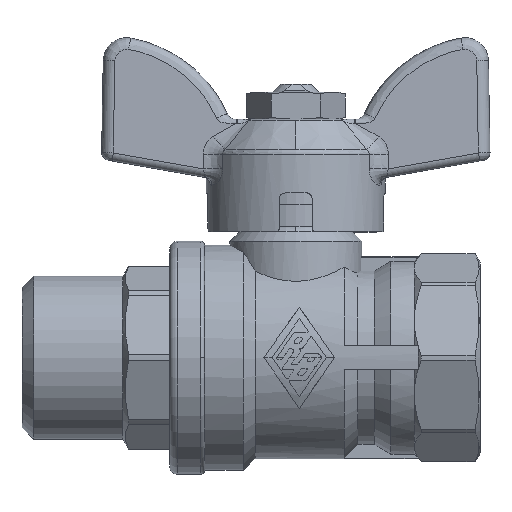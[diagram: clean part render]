
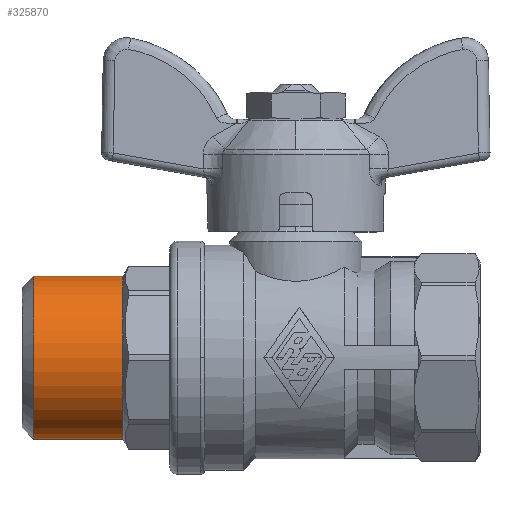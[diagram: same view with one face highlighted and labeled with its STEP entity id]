
A CAD part, top view. The second image highlights one B-rep face of the part: STEP entity #325870.
In plain terms, the highlighted cylindrical face has radius 10.5 mm (diameter 21 mm), a partial arc.
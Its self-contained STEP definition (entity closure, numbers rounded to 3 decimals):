
#58290=CARTESIAN_POINT('',(28.,0.,
0.));
#58300=DIRECTION('',(-1.,0.,0.));
#58310=DIRECTION('',(0.,-1.,0.));
#58320=AXIS2_PLACEMENT_3D('',#58290,#58300,#58310);
#58330=CYLINDRICAL_SURFACE('',#58320,10.5);
#58340=CARTESIAN_POINT('',(28.,10.5,0.))
;
#58350=DIRECTION('',(-1.,0.,0.));
#58360=VECTOR('',#58350,1.);
#58370=LINE('',#58340,#58360);
#58380=CARTESIAN_POINT('',(33.75,10.5,0.))
;
#58390=VERTEX_POINT('',#58380);
#58400=CARTESIAN_POINT('',(22.25,10.5,0.))
;
#58410=VERTEX_POINT('',#58400);
#58420=EDGE_CURVE('',#58390,#58410,#58370,.T.);
#58440=CARTESIAN_POINT('',(33.75,0.,
0.));
#58450=DIRECTION('',(1.,0.,0.));
#58460=DIRECTION('',(0.,-1.,0.));
#58470=AXIS2_PLACEMENT_3D('',#58440,#58450,#58460);
#58480=CIRCLE('',#58470,10.5);
#58490=CARTESIAN_POINT('',(33.75,-10.5,0.))
;
#58500=VERTEX_POINT('',#58490);
#58530=CARTESIAN_POINT('',(28.,-10.5,0.)
);
#58540=DIRECTION('',(-1.,0.,0.));
#58550=VECTOR('',#58540,1.);
#58560=LINE('',#58530,#58550);
#58570=CARTESIAN_POINT('',(22.25,-10.5,0.)
);
#58580=VERTEX_POINT('',#58570);
#58590=EDGE_CURVE('',#58500,#58580,#58560,.T.);
#58610=CARTESIAN_POINT('',(22.25,0.,
0.));
#58620=DIRECTION('',(1.,0.,0.));
#58630=DIRECTION('',(0.,-1.,0.));
#58640=AXIS2_PLACEMENT_3D('',#58610,#58620,#58630);
#58650=CIRCLE('',#58640,10.5);
#170970=EDGE_CURVE('',#58580,#58410,#58650,.T.);
#321840=EDGE_CURVE('',#58500,#58390,#58480,.T.);
#325810=ORIENTED_EDGE('',*,*,#321840,.F.);
#325820=ORIENTED_EDGE('',*,*,#58420,.F.);
#325830=ORIENTED_EDGE('',*,*,#170970,.T.);
#325840=ORIENTED_EDGE('',*,*,#58590,.T.);
#325850=EDGE_LOOP('',(#325840,#325830,#325820,#325810));
#325860=FACE_OUTER_BOUND('',#325850,.T.);
#325870=ADVANCED_FACE('',(#325860),#58330,.T.);
